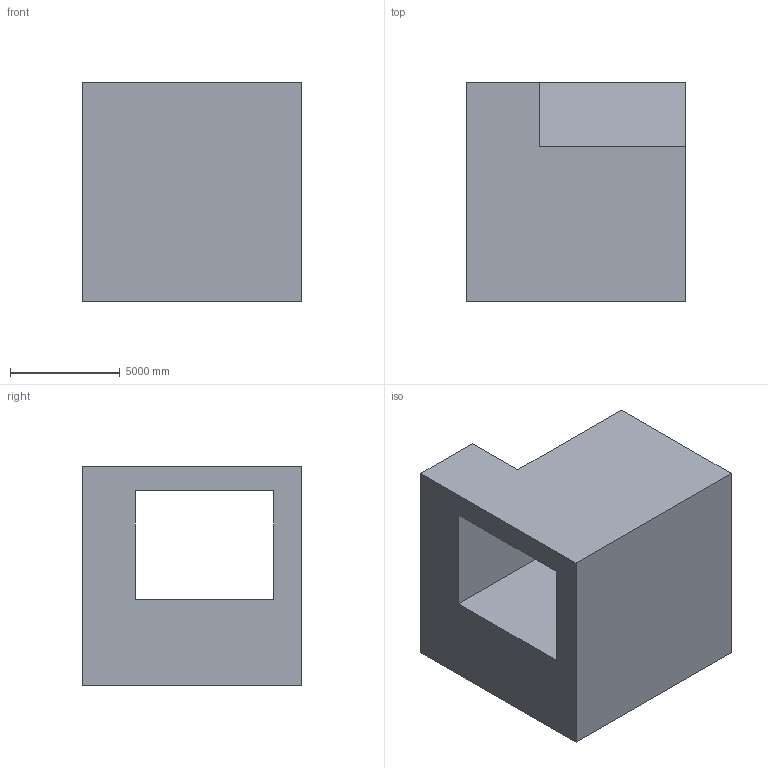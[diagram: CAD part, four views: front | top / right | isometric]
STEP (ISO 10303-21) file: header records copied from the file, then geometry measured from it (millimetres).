
FILE_DESCRIPTION (( 'STEP AP203' ), '1' );
FILE_NAME ('8.STEP', '2022-07-28T13:23:37', ( 'user' ), ( '' ), 'SwSTEP 2.0', 'SolidWorks 2021', '' );
FILE_SCHEMA (( 'CONFIG_CONTROL_DESIGN' ));
Length unit declared in the file: centimetre
Products named in the file (1): 8
Bounding box: 10000 x 10000 x 10000 mm (x, y, z)
Volume: 645010739619.4 mm3; surface area: 749295845.8 mm2
Topology: 1 solids, 1 shells, 12 faces, 30 edges, 20 vertices
Faces by surface type: plane 12
Entity records: 435 total; most frequent: CARTESIAN_POINT 63, ORIENTED_EDGE 60, DIRECTION 56, LINE 30, EDGE_CURVE 30, VECTOR 30, VERTEX_POINT 20, EDGE_LOOP 14
